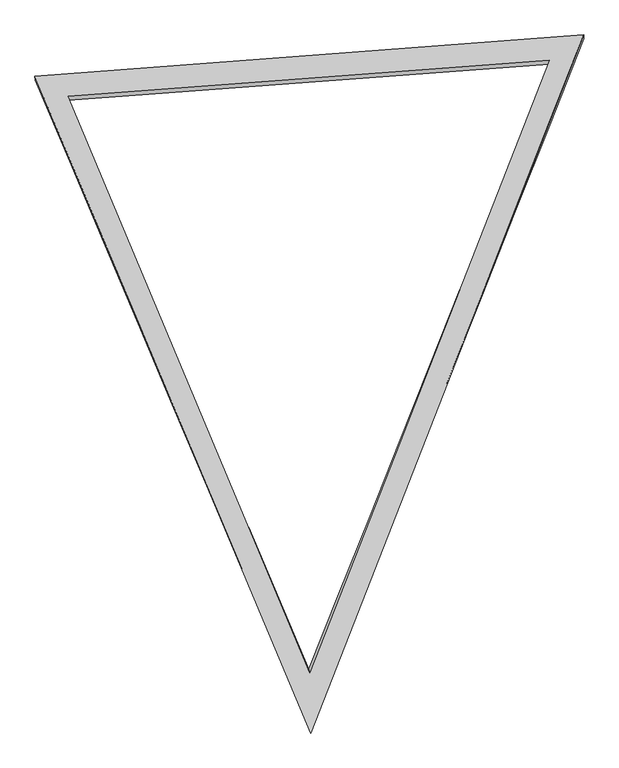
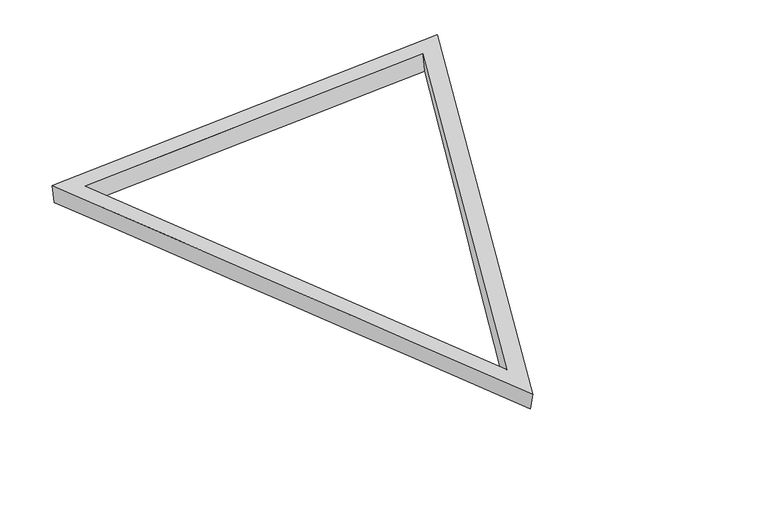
"""IFC4 building model written with IfcOpenShell, lengths in millimetres: plate geometry."""

from ifc_helpers import new_model, si_unit, frame, origin, place, context, project, spatial, source, transform, mapped, element, save
from ifc_brep_helpers import plane_surface, spline_surface, advanced_brep


def plate_6e998fc3(model_context):
    return source(origin(), model_context, "Body", "AdvancedBrep", [
        advanced_brep(
        [(3936.3677017, 6712.6799089, 0.0), (3932.8730954, 6749.2533909, 199.8488148), (6098.6745349, 1587.2434845, 199.9569604), (6090.189741, 1616.9149239, 0.0), (8243.4663633, 7072.0705261, 200.2702843), (8244.0117804, 7037.6541885, 0.0), (6096.0, 1081.234386, 0.0), (8552.8894678, 7264.7337483, 0.0), (8550.3179993, 7298.8194345, 200.3042524), (6105.302034, 1046.2360809, 199.94707), (3639.1105322, 6894.0318657, 0.0), (3636.3355697, 6930.8149322, 199.8237864)],
        [
            (0, 1),
            (1, 2),
            (2, 3),
            (3, 0),
            (2, 4),
            (4, 5),
            (5, 3),
            (0, 5),
            (4, 1),
            (6, 7),
            (7, 8),
            (8, 9),
            (9, 6),
            (7, 10),
            (10, 11),
            (11, 8),
            (9, 11),
            (10, 6),
        ],
        [
            spline_surface(1, 1, [[(3936.3677017, 6712.6799089, 0.0), (6090.189741, 1616.9149239, 0.0)], [(3932.8730954, 6749.2533909, 199.8488148), (6098.6745349, 1587.2434845, 199.9569604)]], [2, 2], [2, 2], [0.0, 1.0], [0.0, 1.0]),
            spline_surface(1, 1, [[(6090.189741, 1616.9149239, 0.0), (8244.0117804, 7037.6541885, 0.0)], [(6098.6745349, 1587.2434845, 199.9569604), (8243.4663633, 7072.0705261, 200.2702843)]], [2, 2], [2, 2], [0.0, 1.0], [0.0, 1.0]),
            spline_surface(1, 1, [[(8244.0117804, 7037.6541885, 0.0), (3936.3677017, 6712.6799089, 0.0)], [(8243.4663633, 7072.0705261, 200.2702843), (3932.8730954, 6749.2533909, 199.8488148)]], [2, 2], [2, 2], [0.0, 1.0], [0.0, 1.0]),
            spline_surface(1, 1, [[(6096.0, 1081.234386, 0.0), (6105.302034, 1046.2360809, 199.94707)], [(8552.8894678, 7264.7337483, 0.0), (8550.3179993, 7298.8194345, 200.3042524)]], [2, 2], [2, 2], [0.0, 1.0], [0.0, 1.0]),
            spline_surface(1, 1, [[(8552.8894678, 7264.7337483, 0.0), (8550.3179993, 7298.8194345, 200.3042524)], [(3639.1105322, 6894.0318657, 0.0), (3636.3355697, 6930.8149322, 199.8237864)]], [2, 2], [2, 2], [0.0, 1.0], [0.0, 1.0]),
            spline_surface(1, 1, [[(3639.1105322, 6894.0318657, 0.0), (3636.3355697, 6930.8149322, 199.8237864)], [(6096.0, 1081.234386, 0.0), (6105.302034, 1046.2360809, 199.94707)]], [2, 2], [2, 2], [0.0, 1.0], [0.0, 1.0]),
            plane_surface(frame((6097.3185343, 5091.9568159, 200.0250363), z_axis=(-9.631784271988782e-05, -1.9461357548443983e-05, 0.9999999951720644), x_axis=(0.3868918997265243, -0.922125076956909, 1.931878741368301e-05))),
            plane_surface(frame((6096.0, 5080.0, 0.0), z_axis=(0.0, 0.0, -1.0), x_axis=(-0.38932129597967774, 0.9211020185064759, 0.0))),
        ],
        [
            (0, [[1, 2, 3, 4]]),
            (1, [[-3, 5, 6, 7]]),
            (2, [[-1, 8, -6, 9]]),
            (3, [[10, 11, 12, 13]]),
            (4, [[-11, 14, 15, 16]]),
            (5, [[-13, 17, -15, 18]]),
            (6, [[-12, -16, -17], [-2, -9, -5]]),
            (7, [[-10, -18, -14], [-4, -7, -8]]),
        ],
    ),
    ])


if __name__ == "__main__":
    model = new_model("IFC4")
    model_context = context("Model", 3, world=origin())
    ifc_project = project(units=[si_unit("LENGTHUNIT", "METRE", prefix="MILLI")], contexts=[model_context])
    site = spatial("IfcSite", under=ifc_project)
    building = spatial("IfcBuilding", under=site)
    placement = place(None, origin())
    plate_shape = plate_6e998fc3(model_context)
    element("IfcPlate", 1, ObjectType="tn_cpanel_patbase_triangle_flat_seamless_frame_02_cylinder : tn_triangle_seamless_frame_t8\"xh8\"", at=placement, inside=building, context=model_context, shape_type="MappedRepresentation", body=[
        mapped(plate_shape, transform((0.0, 0.0, 0.0), x_axis=(1.0, 0.0, 0.0), y_axis=(0.0, 1.0, 0.0), z_axis=(0.0, 0.0, 1.0))),
    ])
    save(model, "model.ifc")
